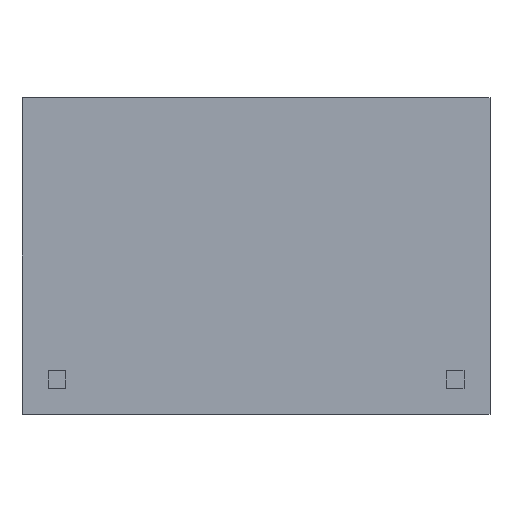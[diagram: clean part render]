
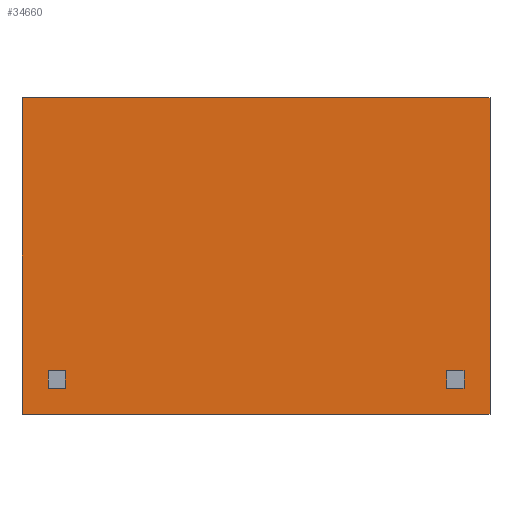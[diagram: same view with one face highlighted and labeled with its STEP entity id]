
A CAD part, front view. The second image highlights one B-rep face of the part: STEP entity #34660.
In plain terms, the highlighted planar face has unit normal (0, -1, 0).
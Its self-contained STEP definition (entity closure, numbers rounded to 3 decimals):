
#96=FACE_BOUND('',#7894,.T.);
#97=FACE_BOUND('',#7895,.T.);
#5978=FACE_OUTER_BOUND('',#7893,.T.);
#7893=EDGE_LOOP('',(#32303,#32304,#32305,#32306));
#7894=EDGE_LOOP('',(#32307,#32308,#32309,#32310));
#7895=EDGE_LOOP('',(#32311,#32312,#32313,#32314));
#7896=LINE('',#38821,#10497);
#7900=LINE('',#38829,#10501);
#7903=LINE('',#38835,#10504);
#7906=LINE('',#38840,#10507);
#7908=LINE('',#38846,#10509);
#7912=LINE('',#38854,#10513);
#7915=LINE('',#38860,#10516);
#7918=LINE('',#38865,#10519);
#10484=LINE('',#66439,#13085);
#10492=LINE('',#66536,#13093);
#10494=LINE('',#66540,#13095);
#10496=LINE('',#66543,#13097);
#10497=VECTOR('',#35192,10.);
#10501=VECTOR('',#35198,10.);
#10504=VECTOR('',#35203,10.);
#10507=VECTOR('',#35208,10.);
#10509=VECTOR('',#35214,10.);
#10513=VECTOR('',#35220,10.);
#10516=VECTOR('',#35225,10.);
#10519=VECTOR('',#35230,10.);
#13085=VECTOR('',#38626,10.);
#13093=VECTOR('',#38804,10.);
#13095=VECTOR('',#38808,10.);
#13097=VECTOR('',#38812,10.);
#13098=VERTEX_POINT('',#38819);
#13099=VERTEX_POINT('',#38820);
#13102=VERTEX_POINT('',#38828);
#13104=VERTEX_POINT('',#38834);
#13106=VERTEX_POINT('',#38844);
#13107=VERTEX_POINT('',#38845);
#13110=VERTEX_POINT('',#38853);
#13112=VERTEX_POINT('',#38859);
#16585=VERTEX_POINT('',#66436);
#16586=VERTEX_POINT('',#66438);
#16590=VERTEX_POINT('',#66535);
#16591=VERTEX_POINT('',#66539);
#16592=EDGE_CURVE('',#13098,#13099,#7896,.T.);
#16596=EDGE_CURVE('',#13099,#13102,#7900,.T.);
#16599=EDGE_CURVE('',#13102,#13104,#7903,.T.);
#16602=EDGE_CURVE('',#13104,#13098,#7906,.T.);
#16604=EDGE_CURVE('',#13106,#13107,#7908,.T.);
#16608=EDGE_CURVE('',#13107,#13110,#7912,.T.);
#16611=EDGE_CURVE('',#13110,#13112,#7915,.T.);
#16614=EDGE_CURVE('',#13112,#13106,#7918,.T.);
#21820=EDGE_CURVE('',#16586,#16585,#10484,.T.);
#21828=EDGE_CURVE('',#16590,#16586,#10492,.T.);
#21830=EDGE_CURVE('',#16585,#16591,#10494,.T.);
#21832=EDGE_CURVE('',#16591,#16590,#10496,.T.);
#32303=ORIENTED_EDGE('',*,*,#21832,.T.);
#32304=ORIENTED_EDGE('',*,*,#21828,.T.);
#32305=ORIENTED_EDGE('',*,*,#21820,.T.);
#32306=ORIENTED_EDGE('',*,*,#21830,.T.);
#32307=ORIENTED_EDGE('',*,*,#16592,.T.);
#32308=ORIENTED_EDGE('',*,*,#16596,.T.);
#32309=ORIENTED_EDGE('',*,*,#16599,.T.);
#32310=ORIENTED_EDGE('',*,*,#16602,.T.);
#32311=ORIENTED_EDGE('',*,*,#16604,.T.);
#32312=ORIENTED_EDGE('',*,*,#16608,.T.);
#32313=ORIENTED_EDGE('',*,*,#16611,.T.);
#32314=ORIENTED_EDGE('',*,*,#16614,.T.);
#32827=PLANE('',#35187);
#34660=ADVANCED_FACE('',(#5978,#96,#97),#32827,.F.);
#35187=AXIS2_PLACEMENT_3D('',#66545,#38815,#38816);
#35192=DIRECTION('',(-1.,0.,0.));
#35198=DIRECTION('',(0.,0.,1.));
#35203=DIRECTION('',(1.,0.,0.));
#35208=DIRECTION('',(0.,0.,-1.));
#35214=DIRECTION('',(-1.,0.,0.));
#35220=DIRECTION('',(0.,0.,1.));
#35225=DIRECTION('',(1.,0.,0.));
#35230=DIRECTION('',(0.,0.,-1.));
#38626=DIRECTION('',(-1.,0.,0.));
#38804=DIRECTION('',(0.,0.,1.));
#38808=DIRECTION('',(0.,0.,-1.));
#38812=DIRECTION('',(1.,0.,0.));
#38815=DIRECTION('center_axis',(0.,1.,0.));
#38816=DIRECTION('ref_axis',(1.,0.,0.));
#38819=CARTESIAN_POINT('',(24.,0.,-15.25));
#38820=CARTESIAN_POINT('',(22.,0.,-15.25));
#38821=CARTESIAN_POINT('',(11.,0.,-15.25));
#38828=CARTESIAN_POINT('',(22.,0.,-13.25));
#38829=CARTESIAN_POINT('',(22.,0.,-6.625));
#38834=CARTESIAN_POINT('',(24.,0.,-13.25));
#38835=CARTESIAN_POINT('',(12.,0.,-13.25));
#38840=CARTESIAN_POINT('',(24.,0.,-7.625));
#38844=CARTESIAN_POINT('',(-22.,0.,-15.25));
#38845=CARTESIAN_POINT('',(-24.,0.,-15.25));
#38846=CARTESIAN_POINT('',(-12.,0.,-15.25));
#38853=CARTESIAN_POINT('',(-24.,0.,-13.25));
#38854=CARTESIAN_POINT('',(-24.,0.,-6.625));
#38859=CARTESIAN_POINT('',(-22.,0.,-13.25));
#38860=CARTESIAN_POINT('',(-11.,0.,-13.25));
#38865=CARTESIAN_POINT('',(-22.,0.,-7.625));
#66436=CARTESIAN_POINT('',(-27.,0.,18.25));
#66438=CARTESIAN_POINT('',(27.,0.,18.25));
#66439=CARTESIAN_POINT('',(27.,0.,18.25));
#66535=CARTESIAN_POINT('',(27.,0.,-18.25));
#66536=CARTESIAN_POINT('',(27.,0.,-18.25));
#66539=CARTESIAN_POINT('',(-27.,0.,-18.25));
#66540=CARTESIAN_POINT('',(-27.,0.,18.25));
#66543=CARTESIAN_POINT('',(-27.,0.,-18.25));
#66545=CARTESIAN_POINT('Origin',(0.,0.,0.));
